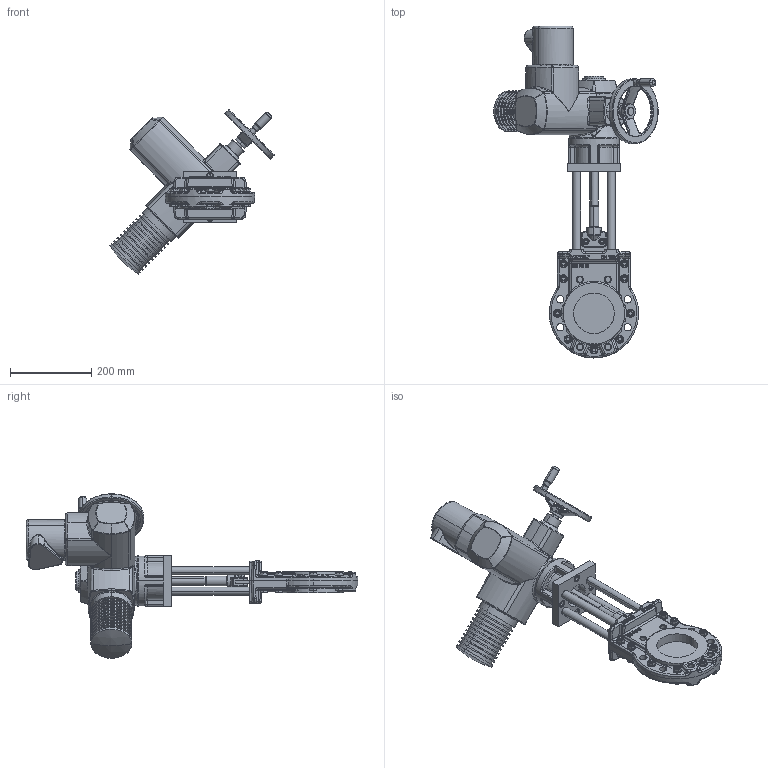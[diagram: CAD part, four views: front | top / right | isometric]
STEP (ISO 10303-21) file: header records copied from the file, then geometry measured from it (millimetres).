
FILE_DESCRIPTION (( 'STEP AP214' ), '1' );
FILE_NAME ('MGE DN 0100 PN10_16 (SA 07.6).STEP', '2015-09-23T08:45:09', ( 'admin' ), ( 'Hewlett-Packard Company' ), 'SwSTEP 2.0', 'SolidWorks 2013', '' );
FILE_SCHEMA (( 'AUTOMOTIVE_DESIGN' ));
Length unit declared in the file: millimetre
Products named in the file (1): MGE DN 0100 PN10_16 (SA 07.6)
Bounding box: 405.06 x 817.5 x 405.06 mm (x, y, z)
Volume: 10185517.4 mm3; surface area: 788506.3 mm2
Topology: 53 solids, 63 shells, 2688 faces, 6256 edges, 3736 vertices
Faces by surface type: plane 904, cylinder 695, cone 449, bspline 380, torus 211, sphere 49
Entity records: 126274 total; most frequent: CARTESIAN_POINT 37274, ORIENTED_EDGE 12332, DIRECTION 12127, EDGE_CURVE 6166, AXIS2_PLACEMENT_3D 4852, VERTEX_POINT 3736, EDGE_LOOP 2940, UNCERTAINTY_MEASURE_WITH_UNIT 2742
